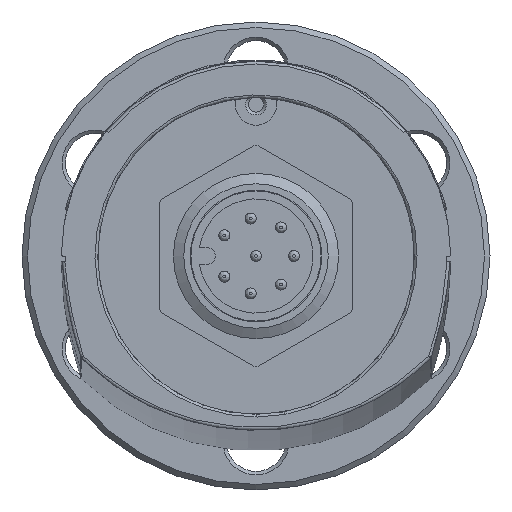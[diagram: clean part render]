
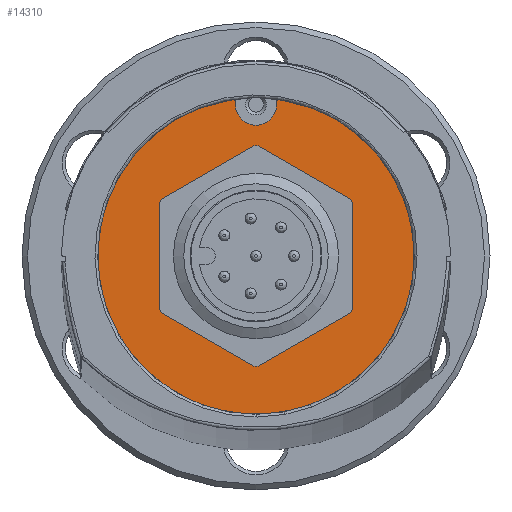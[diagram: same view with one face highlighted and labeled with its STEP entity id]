
A CAD part, left-side view. The second image highlights one B-rep face of the part: STEP entity #14310.
In plain terms, the highlighted planar face has unit normal (-1, 0, 0).
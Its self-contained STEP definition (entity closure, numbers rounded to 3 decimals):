
#1111=LINE($,#23883,#2321);
#1116=LINE($,#23910,#2326);
#2321=VECTOR($,#18646,0.171);
#2326=VECTOR($,#18681,0.171);
#2766=FACE_BOUND($,#4449,.T.);
#3604=FACE_OUTER_BOUND($,#4448,.T.);
#4448=EDGE_LOOP($,(#11235,#11236,#11237,#11238,#11239,#11240));
#4449=EDGE_LOOP($,(#11241));
#5220=CIRCLE($,#15496,0.2);
#5222=CIRCLE($,#15500,0.2);
#5224=CIRCLE($,#15503,11.5);
#5230=CIRCLE($,#15512,1.5);
#5231=CIRCLE($,#15515,7.);
#6297=VERTEX_POINT($,#23870);
#6298=VERTEX_POINT($,#23871);
#6302=VERTEX_POINT($,#23881);
#6303=VERTEX_POINT($,#23885);
#6304=VERTEX_POINT($,#23886);
#6309=VERTEX_POINT($,#23906);
#6310=VERTEX_POINT($,#23912);
#8025=EDGE_CURVE($,#6297,#6298,#5220,.T.);
#8031=EDGE_CURVE($,#6298,#6302,#1111,.T.);
#8032=EDGE_CURVE($,#6303,#6304,#5222,.T.);
#8036=EDGE_CURVE($,#6304,#6297,#5224,.T.);
#8044=EDGE_CURVE($,#6302,#6309,#5230,.T.);
#8045=EDGE_CURVE($,#6309,#6303,#1116,.T.);
#8046=EDGE_CURVE($,#6310,#6310,#5231,.T.);
#11235=ORIENTED_EDGE($,*,*,#8025,.T.);
#11236=ORIENTED_EDGE($,*,*,#8031,.T.);
#11237=ORIENTED_EDGE($,*,*,#8044,.T.);
#11238=ORIENTED_EDGE($,*,*,#8045,.T.);
#11239=ORIENTED_EDGE($,*,*,#8032,.T.);
#11240=ORIENTED_EDGE($,*,*,#8036,.T.);
#11241=ORIENTED_EDGE($,*,*,#8046,.T.);
#12876=PLANE($,#15514);
#14310=ADVANCED_FACE($,(#3604,#2766),#12876,.F.);
#15496=AXIS2_PLACEMENT_3D($,#23872,#18636,#18637);
#15500=AXIS2_PLACEMENT_3D($,#23887,#18649,#18650);
#15503=AXIS2_PLACEMENT_3D($,#23894,#18657,#18658);
#15512=AXIS2_PLACEMENT_3D($,#23908,#18677,#18678);
#15514=AXIS2_PLACEMENT_3D($,#23911,#18682,#18683);
#15515=AXIS2_PLACEMENT_3D($,#23913,#18684,#18685);
#18636=DIRECTION('center_axis',(-1.,0.,0.));
#18637=DIRECTION('ref_axis',(0.,0.652,0.758));
#18646=DIRECTION($,(0.,0.,-1.));
#18649=DIRECTION('center_axis',(-1.,0.,0.));
#18650=DIRECTION('ref_axis',(0.,-0.652,0.758));
#18657=DIRECTION('center_axis',(-1.,0.,0.));
#18658=DIRECTION('ref_axis',(0.,1.,0.));
#18677=DIRECTION('center_axis',(1.,0.,0.));
#18678=DIRECTION('ref_axis',(0.,1.,0.));
#18681=DIRECTION($,(0.,0.,1.));
#18682=DIRECTION('center_axis',(1.,0.,0.));
#18683=DIRECTION('ref_axis',(0.,1.,0.));
#18684=DIRECTION('center_axis',(1.,0.,0.));
#18685=DIRECTION('ref_axis',(0.,1.,0.));
#23870=CARTESIAN_POINT('',(-62.1,-1.73,11.369));
#23871=CARTESIAN_POINT('',(-62.1,-1.5,11.171));
#23872=CARTESIAN_POINT('Origin',(-62.1,-1.7,11.171));
#23881=CARTESIAN_POINT('',(-62.1,-1.5,11.));
#23883=CARTESIAN_POINT($,(-62.1,-1.5,5.701));
#23885=CARTESIAN_POINT('',(-62.1,1.5,11.171));
#23886=CARTESIAN_POINT('',(-62.1,1.73,11.369));
#23887=CARTESIAN_POINT('Origin',(-62.1,1.7,11.171));
#23894=CARTESIAN_POINT('Origin',(-62.1,0.,
0.));
#23906=CARTESIAN_POINT('',(-62.1,1.5,11.));
#23908=CARTESIAN_POINT('Origin',(-62.1,0.,
11.));
#23910=CARTESIAN_POINT($,(-62.1,1.5,5.5));
#23911=CARTESIAN_POINT('Origin',(-62.1,0.,
0.));
#23912=CARTESIAN_POINT('',(-62.1,-7.,0.));
#23913=CARTESIAN_POINT('Origin',(-62.1,0.,
0.));
